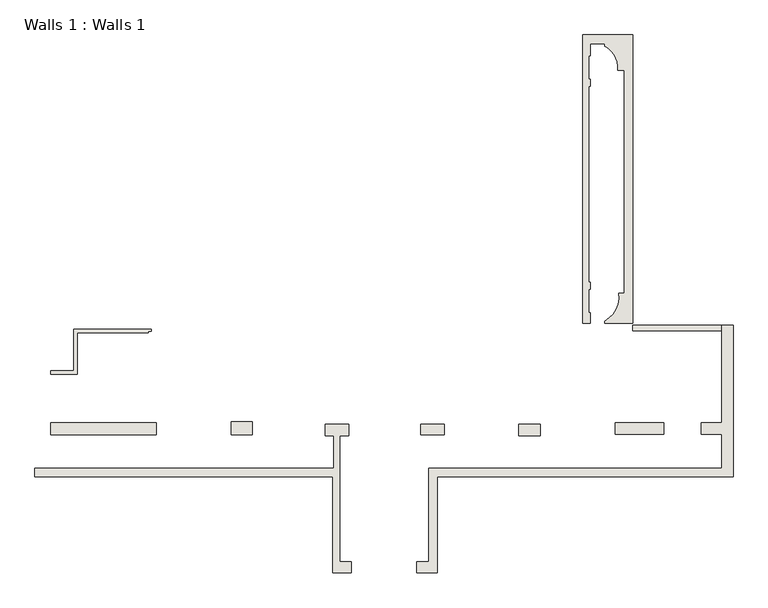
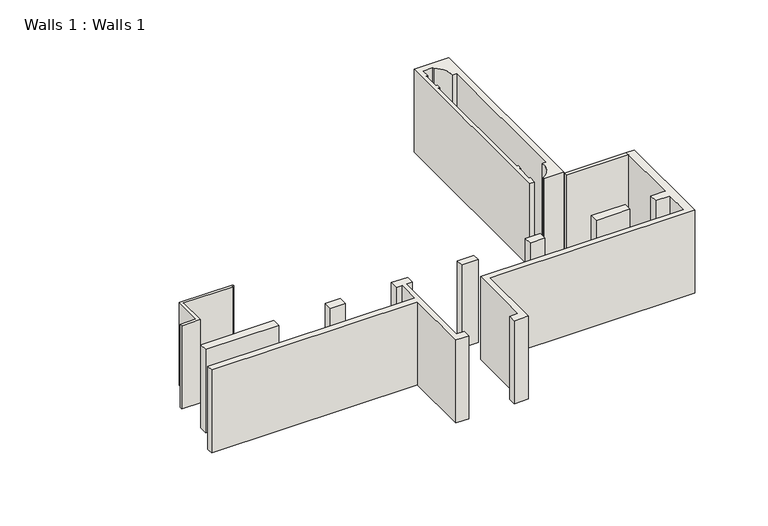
"""IFC4 building model written with IfcOpenShell, lengths in millimetres: wall geometry, Walls 1 : Walls 1."""

from ifc_helpers import new_model, si_unit, point, frame, origin, place, context, project, spatial, polyline, circle_curve, ellipse_curve, trimmed, outline, extrude, source, transform, mapped, element, save
from ifc_brep_helpers import plane_surface, revolved_surface, extruded_surface, advanced_brep


def walls_1_walls_1_f35c03d9(model_context):
    return source(origin(), model_context, "Body", "SolidModel", [
        extrude(outline(polyline([(164758.0448834, 37635.8005963), (144783.8729089, 37635.8005963), (144783.8729089, 31155.8005963), (143403.8729089, 31155.8005963), (143403.8729089, 31905.8005963), (144213.8729089, 31905.8005963), (144213.8729089, 38215.8005963), (164003.8729089, 38215.8005963), (164003.8729089, 40505.8005963), (162603.8729089, 40505.8005963), (162603.8729089, 41295.8005963), (164003.8729089, 41295.8005963), (164003.8729089, 47855.8005963), (164758.0448834, 47855.8005963), (164758.0448834, 37635.8005963)])), frame((0.0, 0.0, -1239.9999999), z_axis=(0.0, 0.0, 1.0), x_axis=(1.0, 0.0, 0.0)), (0.0, 0.0, 1.0), 8560.0),
        extrude(outline(polyline([(151733.8729089, 41185.8005963), (151733.8729089, 40395.8005963), (150303.8729089, 40395.8005963), (150303.8729089, 41185.8005963), (151733.8729089, 41185.8005963)])), frame((0.0, 0.0, -1239.9999999), z_axis=(0.0, 0.0, 1.0), x_axis=(1.0, 0.0, 0.0)), (0.0, 0.0, 1.0), 8560.0),
        extrude(outline(polyline([(160083.8729089, 41295.8005963), (160083.8729089, 40505.8005963), (156793.8729089, 40505.8005963), (156793.8729089, 41295.8005963), (160083.8729089, 41295.8005963)])), frame((0.0, 0.0, -1239.9999999), z_axis=(0.0, 0.0, 1.0), x_axis=(1.0, 0.0, 0.0)), (0.0, 0.0, 1.0), 8560.0),
        extrude(outline(polyline([(145283.8729089, 41195.8005963), (145283.8729089, 40465.8005963), (143673.8729089, 40465.8005963), (143673.8729089, 41195.8005963), (145283.8729089, 41195.8005963)])), frame((0.0, 0.0, -1239.9999999), z_axis=(0.0, 0.0, 1.0), x_axis=(1.0, 0.0, 0.0)), (0.0, 0.0, 1.0), 8560.0),
        extrude(outline(polyline([(138823.8729089, 41195.8005963), (138823.8729089, 40395.8005963), (138213.8729089, 40395.8005963), (138213.8729089, 31905.8005963), (138993.8729089, 31905.8005963), (138993.8729089, 31155.8005963), (137733.8729089, 31155.8005963), (137733.8729089, 37635.8005963), (117653.8729089, 37635.8005963), (117653.8729089, 38235.8005963), (137823.2391925, 38235.8005963), (137823.2391925, 40395.8005963), (137233.8729089, 40395.8005963), (137233.8729089, 41195.8005963), (138823.8729089, 41195.8005963)])), frame((0.0, 0.0, -1239.9999999), z_axis=(0.0, 0.0, 1.0), x_axis=(1.0, 0.0, 0.0)), (0.0, 0.0, 1.0), 8560.0),
        extrude(outline(polyline([(132323.8729089, 41345.8005963), (132323.8729089, 40485.8005963), (130883.8729089, 40485.8005963), (130883.8729089, 41345.8005963), (132323.8729089, 41345.8005963)])), frame((0.0, 0.0, -1239.9999999), z_axis=(0.0, 0.0, 1.0), x_axis=(1.0, 0.0, 0.0)), (0.0, 0.0, 1.0), 8560.0),
        extrude(outline(polyline([(118723.8729089, 40485.8005963), (118723.8729089, 41295.8005963), (125853.8729089, 41295.8005963), (125853.8729089, 40485.8005963), (118723.8729089, 40485.8005963)])), frame((0.0, 0.0, -1239.9999999), z_axis=(0.0, 0.0, 1.0), x_axis=(1.0, 0.0, 0.0)), (0.0, 0.0, 1.0), 8560.0),
        extrude(outline(polyline([(125313.8729089, 47465.8005963), (125313.8729089, 47355.8005963), (120523.8729089, 47355.8005963), (120523.8729089, 44545.8005963), (118723.8729089, 44545.8005963), (118723.8729089, 44795.8005963), (120273.8729089, 44795.8005963), (120273.8729089, 47605.8005963), (125503.8729089, 47605.8005963), (125503.8729089, 47465.8005963), (125313.8729089, 47465.8005963)])), frame((0.0, 0.0, -1239.9999999), z_axis=(0.0, 0.0, 1.0), x_axis=(1.0, 0.0, 0.0)), (0.0, 0.0, 1.0), 8560.0),
        extrude(outline(polyline([(157993.8729089, 47855.8005963), (164003.8729089, 47855.8005963), (164003.8729089, 47485.8044929), (157993.8729089, 47485.8044929), (157993.8729089, 47855.8005963)])), frame((0.0, 0.0, -1239.9999999), z_axis=(0.0, 0.0, 1.0), x_axis=(1.0, 0.0, 0.0)), (0.0, 0.0, 1.0), 8560.0),
        advanced_brep(
        [(156083.8729089, 66855.8005963, 7320.0), (156083.8729089, 66683.2305963, 7320.0), (156963.8729088, 65075.8005963, 7320.0), (157403.8729089, 65075.8005963, 7320.0), (157403.8729089, 50035.8005963, 7320.0), (157053.8729089, 50035.8005963, 7320.0), (156083.8729089, 48150.4605963, 7320.0), (156083.8729089, 48015.8005963, 7320.0), (157993.8729089, 48015.8005963, 7320.0), (157993.8729089, 67455.8005963, 7320.0), (154613.8729089, 67455.8005963, 7320.0), (154613.8729089, 48015.8005963, 7320.0), (155123.8729089, 48015.8005963, 7320.0), (155123.8729089, 48725.8005963, 7320.0), (155003.8729089, 48725.8005963, 7320.0), (155003.8729089, 50305.8005963, 7320.0), (155123.8729089, 50305.8005963, 7320.0), (155123.8729089, 50755.8005963, 7320.0), (155003.8729089, 50755.8005963, 7320.0), (155003.8729089, 64005.8005963, 7320.0), (155123.8729089, 64005.8005963, 7320.0), (155123.8729089, 64455.8005963, 7320.0), (155003.8729089, 64455.8005963, 7320.0), (155003.8729089, 66055.8005963, 7320.0), (155123.8729089, 66055.8005963, 7320.0), (155123.8729089, 66855.8005963, 7320.0), (156083.8729089, 66855.8005963, -1240.0), (155123.8729089, 66855.8005963, -1240.0), (155123.8729089, 66055.8005963, -1240.0), (155003.8729089, 66055.8005963, -1240.0), (155003.8729089, 64455.8005963, -1240.0), (155123.8729089, 64455.8005963, -1240.0), (155123.8729089, 64005.8005963, -1240.0), (155003.8729089, 64005.8005963, -1240.0), (155003.8729089, 50755.8005963, -1240.0), (155123.8729089, 50755.8005963, -1240.0), (155123.8729089, 50305.8005963, -1240.0), (155003.8729089, 50305.8005963, -1240.0), (155003.8729089, 48725.8005963, -1240.0), (155123.8729089, 48725.8005963, -1240.0), (155123.8729089, 48015.8005963, -1240.0), (154613.8729089, 48015.8005963, -1240.0), (154613.8729089, 67455.8005963, -1240.0), (157993.8729089, 67455.8005963, -1240.0), (157993.8729089, 48015.8005963, -1240.0), (156083.8729089, 48015.8005963, -1240.0), (156083.8729089, 48150.4605963, -1240.0), (157053.8729089, 50035.8005963, -1240.0), (157403.8729089, 50035.8005963, -1240.0), (157403.8729089, 65075.8005963, -1240.0), (156963.8729088, 65075.8005963, -1240.0), (156083.8729089, 66683.2305963, -1240.0)],
        [
            (0, 1),
            (1, 2, ellipse_curve(frame((155408.5109645, 65283.8178885, 7320.0), z_axis=(0.0, 0.0, -1.0), x_axis=(1.0, 0.0, 0.0)), 1569.555813, 1550.267047)),
            (2, 3),
            (3, 4),
            (4, 5),
            (5, 6, circle_curve(frame((155224.2934626, 49784.9114225, 7320.0), z_axis=(0.0, 0.0, -1.0), x_axis=(1.0, 0.0, 0.0)), 1846.7014723)),
            (6, 7),
            (7, 8),
            (8, 9),
            (9, 10),
            (10, 11),
            (11, 12),
            (12, 13),
            (13, 14),
            (14, 15),
            (15, 16),
            (16, 17),
            (17, 18),
            (18, 19),
            (19, 20),
            (20, 21),
            (21, 22),
            (22, 23),
            (23, 24),
            (24, 25),
            (25, 0),
            (26, 27),
            (27, 28),
            (28, 29),
            (29, 30),
            (30, 31),
            (31, 32),
            (32, 33),
            (33, 34),
            (34, 35),
            (35, 36),
            (36, 37),
            (37, 38),
            (38, 39),
            (39, 40),
            (40, 41),
            (41, 42),
            (42, 43),
            (43, 44),
            (44, 45),
            (45, 46),
            (46, 47, circle_curve(frame((155224.2934626, 49784.9114225, -1240.0), z_axis=(0.0, 0.0, 1.0), x_axis=(1.0, 0.0, 0.0)), 1846.7014723)),
            (47, 48),
            (48, 49),
            (49, 50),
            (50, 51, ellipse_curve(frame((155408.5109645, 65283.8178885, -1240.0), z_axis=(0.0, 0.0, 1.0), x_axis=(1.0, 0.0, 0.0)), 1569.555813, 1550.267047)),
            (51, 26),
            (0, 26),
            (51, 1),
            (50, 2),
            (49, 3),
            (8, 44),
            (43, 9),
            (42, 10),
            (5, 47),
            (46, 6),
            (45, 7),
            (4, 48),
            (41, 11),
            (40, 12),
            (39, 13),
            (38, 14),
            (37, 15),
            (36, 16),
            (35, 17),
            (34, 18),
            (33, 19),
            (32, 20),
            (31, 21),
            (30, 22),
            (29, 23),
            (28, 24),
            (27, 25),
        ],
        [
            plane_surface(frame((156083.8729089, 66815.8005963, 7320.0), z_axis=(0.0, 0.0, 1.0), x_axis=(0.0, -1.0, 0.0))),
            plane_surface(frame((156083.8729089, 66815.8005963, -1240.0), z_axis=(0.0, 0.0, -1.0), x_axis=(0.0, 1.0, 0.0))),
            plane_surface(frame((156083.8729089, 66855.8005963, 7320.0), z_axis=(-1.0, 0.0, 0.0), x_axis=(0.0, 0.0, -1.0))),
            extruded_surface(trimmed(ellipse_curve(frame((155408.5109645, 65283.8178885, -9800.0), z_axis=(0.0, 0.0, -1.0), x_axis=(1.0, 0.0, 0.0)), 1569.555813, 1550.267047), [point((156083.8729089, 66683.2305963, -9800.0))], [point((156963.8729088, 65075.8005963, -9800.0))], True, "CARTESIAN"), (0.0, 0.0, 8560.0), 8560.0),
            plane_surface(frame((156963.8729088, 65075.8005963, 7320.0), z_axis=(0.0, -1.0, 0.0), x_axis=(0.0, 0.0, -1.0))),
            plane_surface(frame((157993.8729089, 48015.8005963, 7320.0), z_axis=(1.0, 0.0, 0.0), x_axis=(0.0, 0.0, -1.0))),
            plane_surface(frame((157993.8729089, 67455.8005963, 7320.0), z_axis=(0.0, 1.0, 0.0), x_axis=(0.0, 0.0, -1.0))),
            revolved_surface(polyline([(157070.9949349, 49784.9114225, -1240.0), (157070.9949349, 49784.9114225, 7320.0)]), (155224.2934626, 49784.9114225, -1240.0), (0.0, 0.0, -1.0)),
            plane_surface(frame((156083.8729089, 48150.4605963, 7320.0), z_axis=(-1.0, 0.0, 0.0), x_axis=(0.0, 0.0, -1.0))),
            plane_surface(frame((157403.8729089, 50035.8005963, 7320.0), z_axis=(0.0, 1.0, 0.0), x_axis=(0.0, 0.0, -1.0))),
            plane_surface(frame((154613.8729089, 67455.8005963, 7320.0), z_axis=(-1.0, 0.0, 0.0), x_axis=(0.0, 0.0, -1.0))),
            plane_surface(frame((154613.8729089, 48015.8005963, 7320.0), z_axis=(0.0, -1.0, 0.0), x_axis=(0.0, 0.0, -1.0))),
            plane_surface(frame((155123.8729089, 48015.8005963, 7320.0), z_axis=(1.0, 0.0, 0.0), x_axis=(0.0, 0.0, -1.0))),
            plane_surface(frame((155123.8729089, 48725.8005963, 7320.0), z_axis=(0.0, 1.0, 0.0), x_axis=(0.0, 0.0, -1.0))),
            plane_surface(frame((155003.8729089, 48725.8005963, 7320.0), z_axis=(1.0, 0.0, 0.0), x_axis=(0.0, 0.0, -1.0))),
            plane_surface(frame((155003.8729089, 50305.8005963, 7320.0), z_axis=(0.0, -1.0, 0.0), x_axis=(0.0, 0.0, -1.0))),
            plane_surface(frame((155123.8729089, 50305.8005963, 7320.0), z_axis=(1.0, 0.0, 0.0), x_axis=(0.0, 0.0, -1.0))),
            plane_surface(frame((155123.8729089, 50755.8005963, 7320.0), z_axis=(0.0, 1.0, 0.0), x_axis=(0.0, 0.0, -1.0))),
            plane_surface(frame((155003.8729089, 50755.8005963, 7320.0), z_axis=(1.0, 0.0, 0.0), x_axis=(0.0, 0.0, -1.0))),
            plane_surface(frame((155003.8729089, 64005.8005963, 7320.0), z_axis=(0.0, -1.0, 0.0), x_axis=(0.0, 0.0, -1.0))),
            plane_surface(frame((155123.8729089, 64005.8005963, 7320.0), z_axis=(1.0, 0.0, 0.0), x_axis=(0.0, 0.0, -1.0))),
            plane_surface(frame((155123.8729089, 64455.8005963, 7320.0), z_axis=(0.0, 1.0, 0.0), x_axis=(0.0, 0.0, -1.0))),
            plane_surface(frame((155003.8729089, 64455.8005963, 7320.0), z_axis=(1.0, 0.0, 0.0), x_axis=(0.0, 0.0, -1.0))),
            plane_surface(frame((155003.8729089, 66055.8005963, 7320.0), z_axis=(0.0, -1.0, 0.0), x_axis=(0.0, 0.0, -1.0))),
            plane_surface(frame((155123.8729089, 66055.8005963, 7320.0), z_axis=(1.0, 0.0, 0.0), x_axis=(0.0, 0.0, -1.0))),
            plane_surface(frame((155123.8729089, 66855.8005963, 7320.0), z_axis=(0.0, -1.0, 0.0), x_axis=(0.0, 0.0, -1.0))),
            plane_surface(frame((156083.8729089, 48015.8005963, 7320.0), z_axis=(0.0, -1.0, 0.0), x_axis=(0.0, 0.0, -1.0))),
            plane_surface(frame((157403.8729089, 65075.8005963, 7320.0), z_axis=(-1.0, 0.0, 0.0), x_axis=(0.0, 0.0, -1.0))),
        ],
        [
            (0, [[1, 2, 3, 4, 5, 6, 7, 8, 9, 10, 11, 12, 13, 14, 15, 16, 17, 18, 19, 20, 21, 22, 23, 24, 25, 26]]),
            (1, [[27, 28, 29, 30, 31, 32, 33, 34, 35, 36, 37, 38, 39, 40, 41, 42, 43, 44, 45, 46, 47, 48, 49, 50, 51, 52]]),
            (2, [[-1, 53, -52, 54]]),
            (3, [[-2, -54, -51, 55]]),
            (4, [[-3, -55, -50, 56]]),
            (5, [[-9, 57, -44, 58]]),
            (6, [[-10, -58, -43, 59]]),
            (7, [[-6, 60, -47, 61]]),
            (8, [[-7, -61, -46, 62]]),
            (9, [[-5, 63, -48, -60]]),
            (10, [[-11, -59, -42, 64]]),
            (11, [[-12, -64, -41, 65]]),
            (12, [[-13, -65, -40, 66]]),
            (13, [[-14, -66, -39, 67]]),
            (14, [[-15, -67, -38, 68]]),
            (15, [[-16, -68, -37, 69]]),
            (16, [[-17, -69, -36, 70]]),
            (17, [[-18, -70, -35, 71]]),
            (18, [[-19, -71, -34, 72]]),
            (19, [[-20, -72, -33, 73]]),
            (20, [[-21, -73, -32, 74]]),
            (21, [[-22, -74, -31, 75]]),
            (22, [[-23, -75, -30, 76]]),
            (23, [[-24, -76, -29, 77]]),
            (24, [[-25, -77, -28, 78]]),
            (25, [[-26, -78, -27, -53]]),
            (26, [[-8, -62, -45, -57]]),
            (27, [[-4, -56, -49, -63]]),
        ],
    ),
    ])


if __name__ == "__main__":
    model = new_model("IFC4")
    model_context = context("Model", 3, world=origin())
    ifc_project = project(units=[si_unit("LENGTHUNIT", "METRE", prefix="MILLI")], contexts=[model_context])
    site = spatial("IfcSite", under=ifc_project)
    building = spatial("IfcBuilding", under=site)
    placement = place(None, origin())
    walls_1_walls_1_shape = walls_1_walls_1_f35c03d9(model_context)
    element("IfcWall", 1, ObjectType="Walls 1 : Walls 1", at=placement, inside=building, context=model_context, shape_type="MappedRepresentation", body=[
        mapped(walls_1_walls_1_shape, transform((0.0, 0.0, 0.0), x_axis=(1.0, 0.0, 0.0), y_axis=(0.0, 1.0, 0.0), z_axis=(0.0, 0.0, 1.0))),
    ])
    save(model, "model.ifc")
